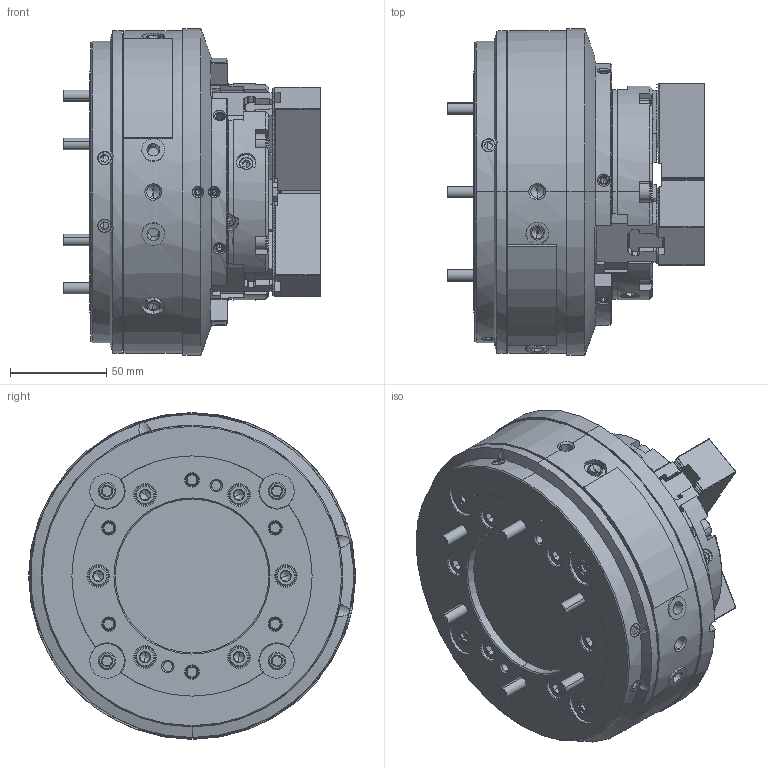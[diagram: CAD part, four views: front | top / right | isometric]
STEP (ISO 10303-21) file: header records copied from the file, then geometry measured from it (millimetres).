
FILE_DESCRIPTION (( 'STEP AP214' ), '1' );
FILE_NAME ('DEV-NRC04-OC.STEP', '2024-10-03T03:10:43', ( '' ), ( '' ), 'SwSTEP 2.0', 'SolidWorks 2022', '' );
FILE_SCHEMA (( 'AUTOMOTIVE_DESIGN' ));
Length unit declared in the file: millimetre
Products named in the file (7): Copy of 61P400832^DEV-NRC04-クミタテ; Copy of P31487^DEV-NRC04-クミタテ; Copy of 0693000001^DEV-NRC04-クミタテ; DEV-NRC04-OC; Copy of 0030108022^DEV-NRC04-クミタテ; Copy of 0030106100^DEV-NRC04-クミタテ; Part1^DEV-NRC04-クミタテ
Assembly tree (21 placements, depth 2):
  DEV-NRC04-OC
    Copy of P31487^DEV-NRC04-クミタテ  x3
    Copy of 61P400832^DEV-NRC04-クミタテ  x3
    Copy of 0030106100^DEV-NRC04-クミタテ  x6
    Copy of 0030108022^DEV-NRC04-クミタテ  x6
    Copy of 0693000001^DEV-NRC04-クミタテ  x2
    Part1^DEV-NRC04-クミタテ
Bounding box: 134.2 x 170 x 170 mm (x, y, z)
Volume: 1708053.2 mm3; surface area: 188893.9 mm2
Topology: 21 solids, 51 shells, 4022 faces, 10727 edges, 6842 vertices
Faces by surface type: plane 2396, cylinder 882, cone 610, bspline 104, torus 20, sphere 10
Entity records: 102381 total; most frequent: CARTESIAN_POINT 29140, ORIENTED_EDGE 15836, DIRECTION 13822, EDGE_CURVE 7918, LINE 5152, VECTOR 5152, VERTEX_POINT 5129, AXIS2_PLACEMENT_3D 4335
